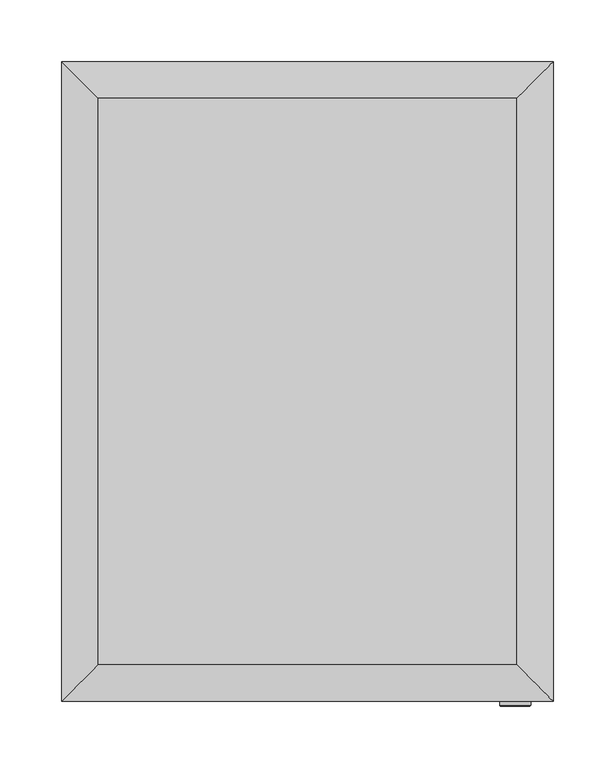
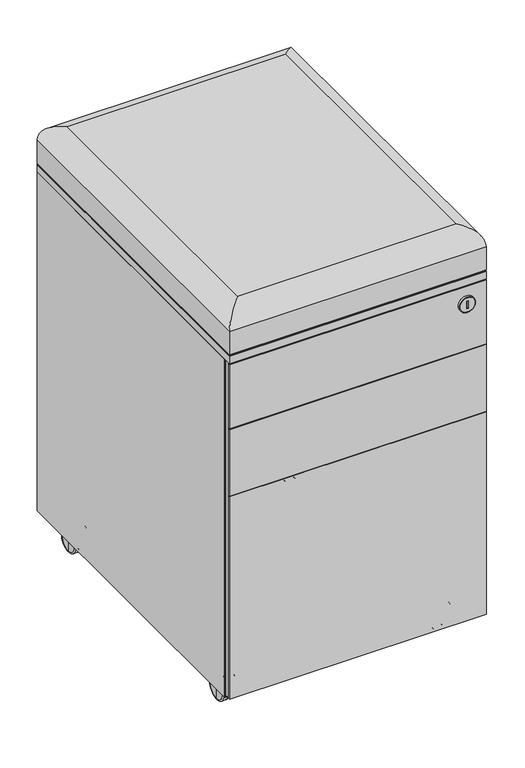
"""IFC4 building model written with IfcOpenShell, lengths in millimetres: furniture geometry, LH mobile caddy w.unpholstered seat : LH mobile caddy w.unpholstered seat."""

from ifc_helpers import new_model, si_unit, point, frame, frame_2d, origin, place, context, project, spatial, polyline, circle_curve, ellipse_curve, trimmed, segment, composite_curve, outline, extrude, faceted_brep, source, transform, mapped, element, save
from ifc_brep_helpers import plane_surface, cylinder_surface, revolved_surface, advanced_brep


def furniture_0ea46203(model_context):
    return source(origin(), model_context, "Body", "SolidModel", [
        extrude(outline(polyline([(170.0273848, -260.0), (168.0273848, -260.0), (168.0273848, -160.0), (170.0273848, -160.0), (170.0273848, -260.0)])), frame((0.0, 0.0, 566.6206655), z_axis=(0.0, 0.0, 1.0), x_axis=(1.0, 0.0, 0.0)), (0.0, 0.0, 1.0), 12.0),
        advanced_brep(
        [(157.4473365, -264.0, 572.5526635), (180.5526635, -264.0, 572.5526635), (170.0273848, -264.0, 578.6206655), (170.0273848, -264.0, 566.6206655), (168.0273848, -264.0, 566.6206655), (168.0273848, -264.0, 578.6206655), (156.4473365, -260.0, 572.5526635), (181.5526635, -260.0, 572.5526635), (170.0273848, -260.0, 578.6206655), (168.0273848, -260.0, 578.6206655), (168.0273848, -260.0, 566.6206655), (170.0273848, -260.0, 566.6206655), (181.5526635, -263.0, 572.5526635), (156.4473365, -263.0, 572.5526635)],
        [
            (0, 1, circle_curve(frame((169.0, -264.0, 572.5526635), z_axis=(0.0, -1.0, 0.0), x_axis=(1.0, 0.0, 0.0)), 11.5526635)),
            (1, 0, circle_curve(frame((169.0, -264.0, 572.5526635), z_axis=(0.0, -1.0, 0.0), x_axis=(-1.0, 0.0, 0.0)), 11.5526635)),
            (2, 3),
            (3, 4),
            (4, 5),
            (5, 2),
            (6, 7, circle_curve(frame((169.0, -260.0, 572.5526635), z_axis=(0.0, 1.0, 0.0), x_axis=(1.0, 0.0, 0.0)), 12.5526635)),
            (7, 6, circle_curve(frame((169.0, -260.0, 572.5526635), z_axis=(0.0, 1.0, 0.0), x_axis=(1.0, 0.0, 0.0)), 12.5526635)),
            (8, 9),
            (9, 10),
            (10, 11),
            (11, 8),
            (7, 12),
            (12, 13, circle_curve(frame((169.0, -263.0, 572.5526635), z_axis=(0.0, 1.0, 0.0), x_axis=(1.0, 0.0, 0.0)), 12.5526635)),
            (13, 6),
            (13, 12, circle_curve(frame((169.0, -263.0, 572.5526635), z_axis=(0.0, 1.0, 0.0), x_axis=(1.0, 0.0, 0.0)), 12.5526635)),
            (2, 8),
            (11, 3),
            (10, 4),
            (9, 5),
            (0, 13, circle_curve(frame((157.4473365, -263.0, 572.5526635), z_axis=(0.0, 0.0, -1.0), x_axis=(-1.0, 0.0, 0.0)), 1.0)),
            (12, 1, circle_curve(frame((180.5526635, -263.0, 572.5526635), z_axis=(0.0, 0.0, -1.0), x_axis=(1.0, 0.0, 0.0)), 1.0)),
        ],
        [
            plane_surface(frame((181.5526635, -264.0, 572.5526635), z_axis=(0.0, -1.0, 0.0), x_axis=(0.0, 0.0, 1.0))),
            plane_surface(frame((181.5526635, -260.0, 572.5526635), z_axis=(0.0, 1.0, 0.0), x_axis=(0.0, 0.0, -1.0))),
            cylinder_surface(frame((169.0, -260.0, 572.5526635), z_axis=(0.0, -1.0, 0.0), x_axis=(1.0, 0.0, 0.0)), 12.5526635),
            plane_surface(frame((170.0273848, -264.0, 578.6206655), z_axis=(-1.0, 0.0, 0.0), x_axis=(0.0, 1.0, 0.0))),
            plane_surface(frame((170.0273848, -264.0, 566.6206655), z_axis=(0.0, 0.0, 1.0), x_axis=(0.0, 1.0, 0.0))),
            plane_surface(frame((168.0273848, -264.0, 566.6206655), z_axis=(1.0, 0.0, 0.0), x_axis=(0.0, 1.0, 0.0))),
            plane_surface(frame((168.0273848, -264.0, 578.6206655), z_axis=(0.0, 0.0, -1.0), x_axis=(0.0, 1.0, 0.0))),
            revolved_surface(trimmed(ellipse_curve(frame((180.5526635, -263.0, 572.5526635), z_axis=(0.0, 0.0, 1.0), x_axis=(1.0, 0.0, 0.0)), 1.0, 1.0), [point((180.5526635, -264.0, 572.5526635))], [point((181.5526635, -263.0, 572.5526635))], True, "CARTESIAN"), (169.0, -264.0, 572.5526635), (0.0, 1.0, 0.0)),
            revolved_surface(trimmed(ellipse_curve(frame((157.4473365, -263.0, 572.5526635), z_axis=(0.0, 0.0, -1.0), x_axis=(-1.0, 0.0, 0.0)), 1.0, 1.0), [point((157.4473365, -264.0, 572.5526635))], [point((156.4473365, -263.0, 572.5526635))], True, "CARTESIAN"), (169.0, -264.0, 572.5526635), (0.0, 1.0, 0.0)),
        ],
        [
            (0, [[1, 2], [3, 4, 5, 6]]),
            (1, [[7, 8], [9, 10, 11, 12]]),
            (2, [[-8, 13, 14, 15]]),
            (2, [[-7, -15, 16, -13]]),
            (3, [[-3, 17, -12, 18]]),
            (4, [[-4, -18, -11, 19]]),
            (5, [[-5, -19, -10, 20]]),
            (6, [[-6, -20, -9, -17]]),
            (7, [[21, -14, 22, -1]]),
            (8, [[-21, -2, -22, -16]]),
        ],
    ),
        advanced_brep(
        [(170.0, 230.0, 685.0), (-170.0, 230.0, 685.0), (-170.0, -230.0, 685.0), (170.0, -230.0, 685.0), (198.0, -258.0, 615.0), (-198.0, -258.0, 615.0), (-198.0, 258.0, 615.0), (198.0, 258.0, 615.0), (-200.0, 260.0, 655.0), (200.0, 260.0, 655.0), (200.0, 260.0, 617.0), (-200.0, 260.0, 617.0), (-200.0, -260.0, 655.0), (-200.0, -260.0, 617.0), (200.0, -260.0, 655.0), (200.0, -260.0, 617.0)],
        [
            (0, 1),
            (1, 2),
            (2, 3),
            (3, 0),
            (4, 5),
            (5, 6),
            (6, 7),
            (7, 4),
            (8, 9),
            (9, 10),
            (10, 11),
            (11, 8),
            (12, 8),
            (11, 13),
            (13, 12),
            (14, 12),
            (13, 15),
            (15, 14),
            (9, 14),
            (15, 10),
            (8, 1, ellipse_curve(frame((-170.0, 230.0, 655.0), z_axis=(0.7071067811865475, 0.7071067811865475, 0.0), x_axis=(-0.7071067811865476, 0.7071067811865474, 0.0)), 42.4264069, 30.0)),
            (0, 9, ellipse_curve(frame((170.0, 230.0, 655.0), z_axis=(-0.7071067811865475, 0.7071067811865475, 0.0), x_axis=(-0.7071067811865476, -0.7071067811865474, 0.0)), 42.4264069, 30.0)),
            (12, 2, ellipse_curve(frame((-170.0, -230.0, 655.0), z_axis=(-0.7071067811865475, 0.7071067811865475, 0.0), x_axis=(-0.7071067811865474, -0.7071067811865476, 0.0)), 42.4264069, 30.0)),
            (14, 3, ellipse_curve(frame((170.0, -230.0, 655.0), z_axis=(-0.7071067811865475, -0.7071067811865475, 0.0), x_axis=(0.7071067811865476, -0.7071067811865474, 0.0)), 42.4264069, 30.0)),
            (13, 5, ellipse_curve(frame((-198.0, -258.0, 617.0), z_axis=(0.7071067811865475, -0.7071067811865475, 0.0), x_axis=(-0.7071067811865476, -0.7071067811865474, 0.0)), 2.8284271, 2.0)),
            (4, 15, ellipse_curve(frame((198.0, -258.0, 617.0), z_axis=(-0.7071067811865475, -0.7071067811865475, 0.0), x_axis=(-0.7071067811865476, 0.7071067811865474, 0.0)), 2.8284271, 2.0)),
            (11, 6, ellipse_curve(frame((-198.0, 258.0, 617.0), z_axis=(-0.7071067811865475, -0.7071067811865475, 0.0), x_axis=(-0.7071067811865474, 0.7071067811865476, 0.0)), 2.8284271, 2.0)),
            (10, 7, ellipse_curve(frame((198.0, 258.0, 617.0), z_axis=(-0.7071067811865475, 0.7071067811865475, 0.0), x_axis=(0.7071067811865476, 0.7071067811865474, 0.0)), 2.8284271, 2.0)),
        ],
        [
            plane_surface(frame((-200.0, 260.0, 685.0), z_axis=(0.0, 0.0, 1.0), x_axis=(-1.0, 0.0, 0.0))),
            plane_surface(frame((-200.0, 260.0, 615.0), z_axis=(0.0, 0.0, -1.0), x_axis=(1.0, 0.0, 0.0))),
            plane_surface(frame((200.0, 260.0, 685.0), z_axis=(0.0, 1.0, 0.0), x_axis=(0.0, 0.0, -1.0))),
            plane_surface(frame((-200.0, 260.0, 685.0), z_axis=(-1.0, 0.0, 0.0), x_axis=(0.0, 0.0, -1.0))),
            plane_surface(frame((-200.0, -260.0, 685.0), z_axis=(0.0, -1.0, 0.0), x_axis=(0.0, 0.0, -1.0))),
            plane_surface(frame((200.0, -260.0, 685.0), z_axis=(1.0, 0.0, 0.0), x_axis=(0.0, 0.0, -1.0))),
            cylinder_surface(frame((200.0, 230.0, 655.0), z_axis=(-1.0, 0.0, 0.0), x_axis=(0.0, -1.0, 0.0)), 30.0),
            cylinder_surface(frame((-170.0, 260.0, 655.0), z_axis=(0.0, -1.0, 0.0), x_axis=(1.0, 0.0, 0.0)), 30.0),
            cylinder_surface(frame((-200.0, -230.0, 655.0), z_axis=(1.0, 0.0, 0.0), x_axis=(0.0, 1.0, 0.0)), 30.0),
            cylinder_surface(frame((170.0, -260.0, 655.0), z_axis=(0.0, 1.0, 0.0), x_axis=(-1.0, 0.0, 0.0)), 30.0),
            cylinder_surface(frame((200.0, -258.0, 617.0), z_axis=(-1.0, 0.0, 0.0), x_axis=(0.0, 1.0, 0.0)), 2.0),
            cylinder_surface(frame((-198.0, -260.0, 617.0), z_axis=(0.0, 1.0, 0.0), x_axis=(1.0, 0.0, 0.0)), 2.0),
            cylinder_surface(frame((-200.0, 258.0, 617.0), z_axis=(1.0, 0.0, 0.0), x_axis=(0.0, -1.0, 0.0)), 2.0),
            cylinder_surface(frame((198.0, 260.0, 617.0), z_axis=(0.0, -1.0, 0.0), x_axis=(-1.0, 0.0, 0.0)), 2.0),
        ],
        [
            (0, [[1, 2, 3, 4]]),
            (1, [[5, 6, 7, 8]]),
            (2, [[9, 10, 11, 12]]),
            (3, [[13, -12, 14, 15]]),
            (4, [[16, -15, 17, 18]]),
            (5, [[19, -18, 20, -10]]),
            (6, [[21, -1, 22, -9]]),
            (7, [[-21, -13, 23, -2]]),
            (8, [[-23, -16, 24, -3]]),
            (9, [[-22, -4, -24, -19]]),
            (10, [[25, -5, 26, -17]]),
            (11, [[-25, -14, 27, -6]]),
            (12, [[-27, -11, 28, -7]]),
            (13, [[-26, -8, -28, -20]]),
        ],
    ),
        extrude(outline(polyline([(178.0, -180.0), (178.0, -200.0), (158.0, -200.0), (158.0, -180.0), (178.0, -180.0)])), frame((0.0, 0.0, 43.9728703), z_axis=(0.0, 0.0, 1.0), x_axis=(1.0, 0.0, 0.0)), (0.0, 0.0, 1.0), 1.0),
        extrude(outline(composite_curve([segment(trimmed(circle_curve(frame_2d((168.0, -190.0)), 5.0), [point((163.0, -190.0))], [point((173.0, -190.0))], False, "CARTESIAN"), True, "CONTINUOUS"), segment(trimmed(circle_curve(frame_2d((168.0, -190.0)), 5.0), [point((173.0, -190.0))], [point((163.0, -190.0))], False, "CARTESIAN"), True, "CONTINUOUS")], self_intersect=False)), frame((0.0, 0.0, 33.9910172), z_axis=(0.0, 0.0, 1.0), x_axis=(1.0, 0.0, 0.0)), (0.0, 0.0, 1.0), 9.9818531),
        advanced_brep(
        [(172.1141274, -190.0, -0.0314992), (172.1141274, -190.0, 38.0135337), (178.4241314, -190.0, 38.0135337), (178.4241314, -190.0, -0.0314992), (170.5141274, -190.0, 2.5273707), (170.5141274, -190.0, 35.4546638), (170.5141274, -190.0, 36.4135337), (170.5141274, -190.0, 1.5685008), (180.5141274, -190.0, 2.0584968), (180.5141274, -190.0, 35.9235376), (180.5141274, -190.0, 18.9910172), (165.4858726, -190.0, 2.5273707), (165.4858726, -190.0, 35.4546638), (165.4858726, -190.0, 1.6116925), (165.4858726, -190.0, 36.370342), (163.8426809, -190.0, -0.0314992), (163.8426809, -190.0, 38.0135337), (157.4746043, -190.0, -0.0314992), (157.4746043, -190.0, 38.0135337), (155.4858726, -190.0, 1.9572325), (155.4858726, -190.0, 36.0248019), (155.4858726, -190.0, 18.9910172)],
        [
            (0, 1, circle_curve(frame((172.1141274, -190.0, 18.9910172), z_axis=(1.0, 0.0, 0.0), x_axis=(0.0, 0.0, 1.0)), 19.0225164)),
            (1, 2),
            (2, 3, circle_curve(frame((178.4241314, -190.0, 18.9910172), z_axis=(-1.0, 0.0, 0.0), x_axis=(0.0, 0.0, 1.0)), 19.0225164)),
            (3, 0),
            (1, 0, circle_curve(frame((172.1141274, -190.0, 18.9910172), z_axis=(1.0, 0.0, 0.0), x_axis=(0.0, 0.0, 1.0)), 19.0225164)),
            (3, 2, circle_curve(frame((178.4241314, -190.0, 18.9910172), z_axis=(-1.0, 0.0, 0.0), x_axis=(0.0, 0.0, 1.0)), 19.0225164)),
            (4, 5, circle_curve(frame((170.5141274, -190.0, 18.9910172), z_axis=(1.0, 0.0, 0.0), x_axis=(0.0, 0.0, 1.0)), 16.4636466)),
            (5, 6),
            (6, 7, circle_curve(frame((170.5141274, -190.0, 18.9910172), z_axis=(-1.0, 0.0, 0.0), x_axis=(0.0, 0.0, 1.0)), 17.4225164)),
            (7, 4),
            (5, 4, circle_curve(frame((170.5141274, -190.0, 18.9910172), z_axis=(1.0, 0.0, 0.0), x_axis=(0.0, 0.0, 1.0)), 16.4636466)),
            (7, 6, circle_curve(frame((170.5141274, -190.0, 18.9910172), z_axis=(-1.0, 0.0, 0.0), x_axis=(0.0, 0.0, 1.0)), 17.4225164)),
            (8, 9, circle_curve(frame((180.5141274, -190.0, 18.9910172), z_axis=(1.0, 0.0, 0.0), x_axis=(0.0, 0.0, 1.0)), 16.9325204)),
            (9, 10),
            (10, 8),
            (9, 8, circle_curve(frame((180.5141274, -190.0, 18.9910172), z_axis=(1.0, 0.0, 0.0), x_axis=(0.0, 0.0, 1.0)), 16.9325204)),
            (2, 9, circle_curve(frame((178.4241314, -190.0, 35.9235376), z_axis=(0.0, 1.0, 0.0), x_axis=(1.0, 0.0, 0.0)), 2.0899961)),
            (8, 3, circle_curve(frame((178.4241314, -190.0, 2.0584968), z_axis=(0.0, 1.0, 0.0), x_axis=(1.0, 0.0, 0.0)), 2.0899961)),
            (6, 1, circle_curve(frame((172.1141274, -190.0, 36.4135337), z_axis=(0.0, 1.0, 0.0), x_axis=(1.0, 0.0, 0.0)), 1.6)),
            (0, 7, circle_curve(frame((172.1141274, -190.0, 1.5685008), z_axis=(0.0, 1.0, 0.0), x_axis=(1.0, 0.0, 0.0)), 1.6)),
            (11, 12, circle_curve(frame((165.4858726, -190.0, 18.9910172), z_axis=(1.0, 0.0, 0.0), x_axis=(0.0, 0.0, 1.0)), 16.4636466)),
            (12, 5),
            (4, 11),
            (12, 11, circle_curve(frame((165.4858726, -190.0, 18.9910172), z_axis=(1.0, 0.0, 0.0), x_axis=(0.0, 0.0, 1.0)), 16.4636466)),
            (13, 14, circle_curve(frame((165.4858726, -190.0, 18.9910172), z_axis=(1.0, 0.0, 0.0), x_axis=(0.0, 0.0, 1.0)), 17.3793248)),
            (14, 12),
            (11, 13),
            (14, 13, circle_curve(frame((165.4858726, -190.0, 18.9910172), z_axis=(1.0, 0.0, 0.0), x_axis=(0.0, 0.0, 1.0)), 17.3793248)),
            (15, 16, circle_curve(frame((163.8426809, -190.0, 18.9910172), z_axis=(1.0, 0.0, 0.0), x_axis=(0.0, 0.0, 1.0)), 19.0225164)),
            (16, 14, circle_curve(frame((163.8426809, -190.0, 36.370342), z_axis=(0.0, 1.0, 0.0), x_axis=(1.0, 0.0, 0.0)), 1.6431917)),
            (13, 15, circle_curve(frame((163.8426809, -190.0, 1.6116925), z_axis=(0.0, 1.0, 0.0), x_axis=(1.0, 0.0, 0.0)), 1.6431917)),
            (16, 15, circle_curve(frame((163.8426809, -190.0, 18.9910172), z_axis=(1.0, 0.0, 0.0), x_axis=(0.0, 0.0, 1.0)), 19.0225164)),
            (17, 18, circle_curve(frame((157.4746043, -190.0, 18.9910172), z_axis=(1.0, 0.0, 0.0), x_axis=(0.0, 0.0, 1.0)), 19.0225164)),
            (18, 16),
            (15, 17),
            (18, 17, circle_curve(frame((157.4746043, -190.0, 18.9910172), z_axis=(1.0, 0.0, 0.0), x_axis=(0.0, 0.0, 1.0)), 19.0225164)),
            (19, 20, circle_curve(frame((155.4858726, -190.0, 18.9910172), z_axis=(1.0, 0.0, 0.0), x_axis=(0.0, 0.0, 1.0)), 17.0337847)),
            (20, 18, circle_curve(frame((157.4746043, -190.0, 36.0248019), z_axis=(0.0, 1.0, 0.0), x_axis=(1.0, 0.0, 0.0)), 1.9887317)),
            (17, 19, circle_curve(frame((157.4746043, -190.0, 1.9572325), z_axis=(0.0, 1.0, 0.0), x_axis=(1.0, 0.0, 0.0)), 1.9887317)),
            (20, 19, circle_curve(frame((155.4858726, -190.0, 18.9910172), z_axis=(1.0, 0.0, 0.0), x_axis=(0.0, 0.0, 1.0)), 17.0337847)),
            (21, 20),
            (19, 21),
        ],
        [
            cylinder_surface(frame((126.3216538, -190.0, 18.9910172), z_axis=(-1.0, 0.0, 0.0), x_axis=(0.0, 0.0, 1.0)), 19.0225164),
            plane_surface(frame((170.5141274, -190.0, 18.9910172), z_axis=(-1.0, 0.0, 0.0), x_axis=(0.0, 0.0, 1.0))),
            plane_surface(frame((180.5141274, -190.0, 18.9910172), z_axis=(1.0, 0.0, 0.0), x_axis=(0.0, 0.0, 1.0))),
            revolved_surface(trimmed(ellipse_curve(frame((178.4241314, -190.0, 35.9235376), z_axis=(0.0, -1.0, 0.0), x_axis=(1.0, 0.0, 0.0)), 2.0899961, 2.0899961), [point((180.5141274, -190.0, 35.9235376))], [point((178.4241314, -190.0, 38.0135337))], True, "CARTESIAN"), (126.3216538, -190.0, 18.9910172), (-1.0, 0.0, 0.0)),
            revolved_surface(trimmed(ellipse_curve(frame((172.1141274, -190.0, 36.4135337), z_axis=(0.0, -1.0, 0.0), x_axis=(1.0, 0.0, 0.0)), 1.6, 1.6), [point((172.1141274, -190.0, 38.0135337))], [point((170.5141274, -190.0, 36.4135337))], True, "CARTESIAN"), (126.3216538, -190.0, 18.9910172), (-1.0, 0.0, 0.0)),
            cylinder_surface(frame((126.3216538, -190.0, 18.9910172), z_axis=(-1.0, 0.0, 0.0), x_axis=(0.0, 0.0, 1.0)), 16.4636466),
            plane_surface(frame((165.4858726, -190.0, 18.9910172), z_axis=(1.0, 0.0, 0.0), x_axis=(0.0, 0.0, 1.0))),
            revolved_surface(trimmed(ellipse_curve(frame((163.8426809, -190.0, 36.370342), z_axis=(0.0, -1.0, 0.0), x_axis=(1.0, 0.0, 0.0)), 1.6431917, 1.6431917), [point((165.4858726, -190.0, 36.370342))], [point((163.8426809, -190.0, 38.0135337))], True, "CARTESIAN"), (126.3216538, -190.0, 18.9910172), (-1.0, 0.0, 0.0)),
            revolved_surface(trimmed(ellipse_curve(frame((157.4746043, -190.0, 36.0248019), z_axis=(0.0, -1.0, 0.0), x_axis=(1.0, 0.0, 0.0)), 1.9887317, 1.9887317), [point((157.4746043, -190.0, 38.0135337))], [point((155.4858726, -190.0, 36.0248019))], True, "CARTESIAN"), (126.3216538, -190.0, 18.9910172), (-1.0, 0.0, 0.0)),
            plane_surface(frame((155.4858726, -190.0, 18.9910172), z_axis=(-1.0, 0.0, 0.0), x_axis=(0.0, 0.0, 1.0))),
        ],
        [
            (0, [[1, 2, 3, 4]]),
            (0, [[5, -4, 6, -2]]),
            (1, [[7, 8, 9, 10]]),
            (1, [[11, -10, 12, -8]]),
            (2, [[13, 14, 15]]),
            (2, [[16, -15, -14]]),
            (3, [[-3, 17, -13, 18]]),
            (3, [[-6, -18, -16, -17]]),
            (4, [[-9, 19, -1, 20]]),
            (4, [[-12, -20, -5, -19]]),
            (5, [[21, 22, -7, 23]]),
            (5, [[24, -23, -11, -22]]),
            (6, [[25, 26, -21, 27]]),
            (6, [[28, -27, -24, -26]]),
            (7, [[29, 30, -25, 31]]),
            (7, [[32, -31, -28, -30]]),
            (0, [[33, 34, -29, 35]]),
            (0, [[36, -35, -32, -34]]),
            (8, [[37, 38, -33, 39]]),
            (8, [[40, -39, -36, -38]]),
            (9, [[41, -37, 42]]),
            (9, [[-42, -40, -41]]),
        ],
    ),
        extrude(outline(polyline([(-158.0, -180.0), (-158.0, -200.0), (-178.0, -200.0), (-178.0, -180.0), (-158.0, -180.0)])), frame((0.0, 0.0, 43.9728703), z_axis=(0.0, 0.0, 1.0), x_axis=(1.0, 0.0, 0.0)), (0.0, 0.0, 1.0), 1.0),
        extrude(outline(composite_curve([segment(trimmed(circle_curve(frame_2d((-168.0, -190.0)), 5.0), [point((-173.0, -190.0))], [point((-163.0, -190.0))], False, "CARTESIAN"), True, "CONTINUOUS"), segment(trimmed(circle_curve(frame_2d((-168.0, -190.0)), 5.0), [point((-163.0, -190.0))], [point((-173.0, -190.0))], False, "CARTESIAN"), True, "CONTINUOUS")], self_intersect=False)), frame((0.0, 0.0, 33.9910172), z_axis=(0.0, 0.0, 1.0), x_axis=(1.0, 0.0, 0.0)), (0.0, 0.0, 1.0), 9.9818531),
        advanced_brep(
        [(-163.8858726, -190.0, -0.0314992), (-163.8858726, -190.0, 38.0135337), (-157.5758686, -190.0, 38.0135337), (-157.5758686, -190.0, -0.0314992), (-165.4858726, -190.0, 2.5273707), (-165.4858726, -190.0, 35.4546638), (-165.4858726, -190.0, 36.4135337), (-165.4858726, -190.0, 1.5685008), (-155.4858726, -190.0, 2.0584968), (-155.4858726, -190.0, 35.9235376), (-155.4858726, -190.0, 18.9910172), (-170.5141274, -190.0, 2.5273707), (-170.5141274, -190.0, 35.4546638), (-170.5141274, -190.0, 1.6116925), (-170.5141274, -190.0, 36.370342), (-172.1573191, -190.0, -0.0314992), (-172.1573191, -190.0, 38.0135337), (-178.5253957, -190.0, -0.0314992), (-178.5253957, -190.0, 38.0135337), (-180.5141274, -190.0, 1.9572325), (-180.5141274, -190.0, 36.0248019), (-180.5141274, -190.0, 18.9910172)],
        [
            (0, 1, circle_curve(frame((-163.8858726, -190.0, 18.9910172), z_axis=(1.0, 0.0, 0.0), x_axis=(0.0, 0.0, 1.0)), 19.0225164)),
            (1, 2),
            (2, 3, circle_curve(frame((-157.5758686, -190.0, 18.9910172), z_axis=(-1.0, 0.0, 0.0), x_axis=(0.0, 0.0, 1.0)), 19.0225164)),
            (3, 0),
            (1, 0, circle_curve(frame((-163.8858726, -190.0, 18.9910172), z_axis=(1.0, 0.0, 0.0), x_axis=(0.0, 0.0, 1.0)), 19.0225164)),
            (3, 2, circle_curve(frame((-157.5758686, -190.0, 18.9910172), z_axis=(-1.0, 0.0, 0.0), x_axis=(0.0, 0.0, 1.0)), 19.0225164)),
            (4, 5, circle_curve(frame((-165.4858726, -190.0, 18.9910172), z_axis=(1.0, 0.0, 0.0), x_axis=(0.0, 0.0, 1.0)), 16.4636466)),
            (5, 6),
            (6, 7, circle_curve(frame((-165.4858726, -190.0, 18.9910172), z_axis=(-1.0, 0.0, 0.0), x_axis=(0.0, 0.0, 1.0)), 17.4225164)),
            (7, 4),
            (5, 4, circle_curve(frame((-165.4858726, -190.0, 18.9910172), z_axis=(1.0, 0.0, 0.0), x_axis=(0.0, 0.0, 1.0)), 16.4636466)),
            (7, 6, circle_curve(frame((-165.4858726, -190.0, 18.9910172), z_axis=(-1.0, 0.0, 0.0), x_axis=(0.0, 0.0, 1.0)), 17.4225164)),
            (8, 9, circle_curve(frame((-155.4858726, -190.0, 18.9910172), z_axis=(1.0, 0.0, 0.0), x_axis=(0.0, 0.0, 1.0)), 16.9325204)),
            (9, 10),
            (10, 8),
            (9, 8, circle_curve(frame((-155.4858726, -190.0, 18.9910172), z_axis=(1.0, 0.0, 0.0), x_axis=(0.0, 0.0, 1.0)), 16.9325204)),
            (2, 9, circle_curve(frame((-157.5758686, -190.0, 35.9235376), z_axis=(0.0, 1.0, 0.0), x_axis=(1.0, 0.0, 0.0)), 2.0899961)),
            (8, 3, circle_curve(frame((-157.5758686, -190.0, 2.0584968), z_axis=(0.0, 1.0, 0.0), x_axis=(1.0, 0.0, 0.0)), 2.0899961)),
            (6, 1, circle_curve(frame((-163.8858726, -190.0, 36.4135337), z_axis=(0.0, 1.0, 0.0), x_axis=(1.0, 0.0, 0.0)), 1.6)),
            (0, 7, circle_curve(frame((-163.8858726, -190.0, 1.5685008), z_axis=(0.0, 1.0, 0.0), x_axis=(1.0, 0.0, 0.0)), 1.6)),
            (11, 12, circle_curve(frame((-170.5141274, -190.0, 18.9910172), z_axis=(1.0, 0.0, 0.0), x_axis=(0.0, 0.0, 1.0)), 16.4636466)),
            (12, 5),
            (4, 11),
            (12, 11, circle_curve(frame((-170.5141274, -190.0, 18.9910172), z_axis=(1.0, 0.0, 0.0), x_axis=(0.0, 0.0, 1.0)), 16.4636466)),
            (13, 14, circle_curve(frame((-170.5141274, -190.0, 18.9910172), z_axis=(1.0, 0.0, 0.0), x_axis=(0.0, 0.0, 1.0)), 17.3793248)),
            (14, 12),
            (11, 13),
            (14, 13, circle_curve(frame((-170.5141274, -190.0, 18.9910172), z_axis=(1.0, 0.0, 0.0), x_axis=(0.0, 0.0, 1.0)), 17.3793248)),
            (15, 16, circle_curve(frame((-172.1573191, -190.0, 18.9910172), z_axis=(1.0, 0.0, 0.0), x_axis=(0.0, 0.0, 1.0)), 19.0225164)),
            (16, 14, circle_curve(frame((-172.1573191, -190.0, 36.370342), z_axis=(0.0, 1.0, 0.0), x_axis=(1.0, 0.0, 0.0)), 1.6431917)),
            (13, 15, circle_curve(frame((-172.1573191, -190.0, 1.6116925), z_axis=(0.0, 1.0, 0.0), x_axis=(1.0, 0.0, 0.0)), 1.6431917)),
            (16, 15, circle_curve(frame((-172.1573191, -190.0, 18.9910172), z_axis=(1.0, 0.0, 0.0), x_axis=(0.0, 0.0, 1.0)), 19.0225164)),
            (17, 18, circle_curve(frame((-178.5253957, -190.0, 18.9910172), z_axis=(1.0, 0.0, 0.0), x_axis=(0.0, 0.0, 1.0)), 19.0225164)),
            (18, 16),
            (15, 17),
            (18, 17, circle_curve(frame((-178.5253957, -190.0, 18.9910172), z_axis=(1.0, 0.0, 0.0), x_axis=(0.0, 0.0, 1.0)), 19.0225164)),
            (19, 20, circle_curve(frame((-180.5141274, -190.0, 18.9910172), z_axis=(1.0, 0.0, 0.0), x_axis=(0.0, 0.0, 1.0)), 17.0337847)),
            (20, 18, circle_curve(frame((-178.5253957, -190.0, 36.0248019), z_axis=(0.0, 1.0, 0.0), x_axis=(1.0, 0.0, 0.0)), 1.9887317)),
            (17, 19, circle_curve(frame((-178.5253957, -190.0, 1.9572325), z_axis=(0.0, 1.0, 0.0), x_axis=(1.0, 0.0, 0.0)), 1.9887317)),
            (20, 19, circle_curve(frame((-180.5141274, -190.0, 18.9910172), z_axis=(1.0, 0.0, 0.0), x_axis=(0.0, 0.0, 1.0)), 17.0337847)),
            (21, 20),
            (19, 21),
        ],
        [
            cylinder_surface(frame((-209.6783462, -190.0, 18.9910172), z_axis=(-1.0, 0.0, 0.0), x_axis=(0.0, 0.0, 1.0)), 19.0225164),
            plane_surface(frame((-165.4858726, -190.0, 18.9910172), z_axis=(-1.0, 0.0, 0.0), x_axis=(0.0, 0.0, 1.0))),
            plane_surface(frame((-155.4858726, -190.0, 18.9910172), z_axis=(1.0, 0.0, 0.0), x_axis=(0.0, 0.0, 1.0))),
            revolved_surface(trimmed(ellipse_curve(frame((-157.5758686, -190.0, 35.9235376), z_axis=(0.0, -1.0, 0.0), x_axis=(1.0, 0.0, 0.0)), 2.0899961, 2.0899961), [point((-155.4858726, -190.0, 35.9235376))], [point((-157.5758686, -190.0, 38.0135337))], True, "CARTESIAN"), (-209.6783462, -190.0, 18.9910172), (-1.0, 0.0, 0.0)),
            revolved_surface(trimmed(ellipse_curve(frame((-163.8858726, -190.0, 36.4135337), z_axis=(0.0, -1.0, 0.0), x_axis=(1.0, 0.0, 0.0)), 1.6, 1.6), [point((-163.8858726, -190.0, 38.0135337))], [point((-165.4858726, -190.0, 36.4135337))], True, "CARTESIAN"), (-209.6783462, -190.0, 18.9910172), (-1.0, 0.0, 0.0)),
            cylinder_surface(frame((-209.6783462, -190.0, 18.9910172), z_axis=(-1.0, 0.0, 0.0), x_axis=(0.0, 0.0, 1.0)), 16.4636466),
            plane_surface(frame((-170.5141274, -190.0, 18.9910172), z_axis=(1.0, 0.0, 0.0), x_axis=(0.0, 0.0, 1.0))),
            revolved_surface(trimmed(ellipse_curve(frame((-172.1573191, -190.0, 36.370342), z_axis=(0.0, -1.0, 0.0), x_axis=(1.0, 0.0, 0.0)), 1.6431917, 1.6431917), [point((-170.5141274, -190.0, 36.370342))], [point((-172.1573191, -190.0, 38.0135337))], True, "CARTESIAN"), (-209.6783462, -190.0, 18.9910172), (-1.0, 0.0, 0.0)),
            revolved_surface(trimmed(ellipse_curve(frame((-178.5253957, -190.0, 36.0248019), z_axis=(0.0, -1.0, 0.0), x_axis=(1.0, 0.0, 0.0)), 1.9887317, 1.9887317), [point((-178.5253957, -190.0, 38.0135337))], [point((-180.5141274, -190.0, 36.0248019))], True, "CARTESIAN"), (-209.6783462, -190.0, 18.9910172), (-1.0, 0.0, 0.0)),
            plane_surface(frame((-180.5141274, -190.0, 18.9910172), z_axis=(-1.0, 0.0, 0.0), x_axis=(0.0, 0.0, 1.0))),
        ],
        [
            (0, [[1, 2, 3, 4]]),
            (0, [[5, -4, 6, -2]]),
            (1, [[7, 8, 9, 10]]),
            (1, [[11, -10, 12, -8]]),
            (2, [[13, 14, 15]]),
            (2, [[16, -15, -14]]),
            (3, [[-3, 17, -13, 18]]),
            (3, [[-6, -18, -16, -17]]),
            (4, [[-9, 19, -1, 20]]),
            (4, [[-12, -20, -5, -19]]),
            (5, [[21, 22, -7, 23]]),
            (5, [[24, -23, -11, -22]]),
            (6, [[25, 26, -21, 27]]),
            (6, [[28, -27, -24, -26]]),
            (7, [[29, 30, -25, 31]]),
            (7, [[32, -31, -28, -30]]),
            (0, [[33, 34, -29, 35]]),
            (0, [[36, -35, -32, -34]]),
            (8, [[37, 38, -33, 39]]),
            (8, [[40, -39, -36, -38]]),
            (9, [[41, -37, 42]]),
            (9, [[-42, -40, -41]]),
        ],
    ),
        extrude(outline(polyline([(-158.0, 220.0), (-158.0, 200.0), (-178.0, 200.0), (-178.0, 220.0), (-158.0, 220.0)])), frame((0.0, 0.0, 43.9728703), z_axis=(0.0, 0.0, 1.0), x_axis=(1.0, 0.0, 0.0)), (0.0, 0.0, 1.0), 1.0),
        extrude(outline(composite_curve([segment(trimmed(circle_curve(frame_2d((-168.0, 210.0)), 5.0), [point((-173.0, 210.0))], [point((-163.0, 210.0))], False, "CARTESIAN"), True, "CONTINUOUS"), segment(trimmed(circle_curve(frame_2d((-168.0, 210.0)), 5.0), [point((-163.0, 210.0))], [point((-173.0, 210.0))], False, "CARTESIAN"), True, "CONTINUOUS")], self_intersect=False)), frame((0.0, 0.0, 33.9910172), z_axis=(0.0, 0.0, 1.0), x_axis=(1.0, 0.0, 0.0)), (0.0, 0.0, 1.0), 9.9818531),
        advanced_brep(
        [(-163.8858726, 210.0, -0.0314992), (-163.8858726, 210.0, 38.0135337), (-157.5758686, 210.0, 38.0135337), (-157.5758686, 210.0, -0.0314992), (-165.4858726, 210.0, 2.5273707), (-165.4858726, 210.0, 35.4546638), (-165.4858726, 210.0, 36.4135337), (-165.4858726, 210.0, 1.5685008), (-155.4858726, 210.0, 2.0584968), (-155.4858726, 210.0, 35.9235376), (-155.4858726, 210.0, 18.9910172), (-170.5141274, 210.0, 2.5273707), (-170.5141274, 210.0, 35.4546638), (-170.5141274, 210.0, 1.6116925), (-170.5141274, 210.0, 36.370342), (-172.1573191, 210.0, -0.0314992), (-172.1573191, 210.0, 38.0135337), (-178.5253957, 210.0, -0.0314992), (-178.5253957, 210.0, 38.0135337), (-180.5141274, 210.0, 1.9572325), (-180.5141274, 210.0, 36.0248019), (-180.5141274, 210.0, 18.9910172)],
        [
            (0, 1, circle_curve(frame((-163.8858726, 210.0, 18.9910172), z_axis=(1.0, 0.0, 0.0), x_axis=(0.0, 0.0, 1.0)), 19.0225164)),
            (1, 2),
            (2, 3, circle_curve(frame((-157.5758686, 210.0, 18.9910172), z_axis=(-1.0, 0.0, 0.0), x_axis=(0.0, 0.0, 1.0)), 19.0225164)),
            (3, 0),
            (1, 0, circle_curve(frame((-163.8858726, 210.0, 18.9910172), z_axis=(1.0, 0.0, 0.0), x_axis=(0.0, 0.0, 1.0)), 19.0225164)),
            (3, 2, circle_curve(frame((-157.5758686, 210.0, 18.9910172), z_axis=(-1.0, 0.0, 0.0), x_axis=(0.0, 0.0, 1.0)), 19.0225164)),
            (4, 5, circle_curve(frame((-165.4858726, 210.0, 18.9910172), z_axis=(1.0, 0.0, 0.0), x_axis=(0.0, 0.0, 1.0)), 16.4636466)),
            (5, 6),
            (6, 7, circle_curve(frame((-165.4858726, 210.0, 18.9910172), z_axis=(-1.0, 0.0, 0.0), x_axis=(0.0, 0.0, 1.0)), 17.4225164)),
            (7, 4),
            (5, 4, circle_curve(frame((-165.4858726, 210.0, 18.9910172), z_axis=(1.0, 0.0, 0.0), x_axis=(0.0, 0.0, 1.0)), 16.4636466)),
            (7, 6, circle_curve(frame((-165.4858726, 210.0, 18.9910172), z_axis=(-1.0, 0.0, 0.0), x_axis=(0.0, 0.0, 1.0)), 17.4225164)),
            (8, 9, circle_curve(frame((-155.4858726, 210.0, 18.9910172), z_axis=(1.0, 0.0, 0.0), x_axis=(0.0, 0.0, 1.0)), 16.9325204)),
            (9, 10),
            (10, 8),
            (9, 8, circle_curve(frame((-155.4858726, 210.0, 18.9910172), z_axis=(1.0, 0.0, 0.0), x_axis=(0.0, 0.0, 1.0)), 16.9325204)),
            (2, 9, circle_curve(frame((-157.5758686, 210.0, 35.9235376), z_axis=(0.0, 1.0, 0.0), x_axis=(1.0, 0.0, 0.0)), 2.0899961)),
            (8, 3, circle_curve(frame((-157.5758686, 210.0, 2.0584968), z_axis=(0.0, 1.0, 0.0), x_axis=(1.0, 0.0, 0.0)), 2.0899961)),
            (6, 1, circle_curve(frame((-163.8858726, 210.0, 36.4135337), z_axis=(0.0, 1.0, 0.0), x_axis=(1.0, 0.0, 0.0)), 1.6)),
            (0, 7, circle_curve(frame((-163.8858726, 210.0, 1.5685008), z_axis=(0.0, 1.0, 0.0), x_axis=(1.0, 0.0, 0.0)), 1.6)),
            (11, 12, circle_curve(frame((-170.5141274, 210.0, 18.9910172), z_axis=(1.0, 0.0, 0.0), x_axis=(0.0, 0.0, 1.0)), 16.4636466)),
            (12, 5),
            (4, 11),
            (12, 11, circle_curve(frame((-170.5141274, 210.0, 18.9910172), z_axis=(1.0, 0.0, 0.0), x_axis=(0.0, 0.0, 1.0)), 16.4636466)),
            (13, 14, circle_curve(frame((-170.5141274, 210.0, 18.9910172), z_axis=(1.0, 0.0, 0.0), x_axis=(0.0, 0.0, 1.0)), 17.3793248)),
            (14, 12),
            (11, 13),
            (14, 13, circle_curve(frame((-170.5141274, 210.0, 18.9910172), z_axis=(1.0, 0.0, 0.0), x_axis=(0.0, 0.0, 1.0)), 17.3793248)),
            (15, 16, circle_curve(frame((-172.1573191, 210.0, 18.9910172), z_axis=(1.0, 0.0, 0.0), x_axis=(0.0, 0.0, 1.0)), 19.0225164)),
            (16, 14, circle_curve(frame((-172.1573191, 210.0, 36.370342), z_axis=(0.0, 1.0, 0.0), x_axis=(1.0, 0.0, 0.0)), 1.6431917)),
            (13, 15, circle_curve(frame((-172.1573191, 210.0, 1.6116925), z_axis=(0.0, 1.0, 0.0), x_axis=(1.0, 0.0, 0.0)), 1.6431917)),
            (16, 15, circle_curve(frame((-172.1573191, 210.0, 18.9910172), z_axis=(1.0, 0.0, 0.0), x_axis=(0.0, 0.0, 1.0)), 19.0225164)),
            (17, 18, circle_curve(frame((-178.5253957, 210.0, 18.9910172), z_axis=(1.0, 0.0, 0.0), x_axis=(0.0, 0.0, 1.0)), 19.0225164)),
            (18, 16),
            (15, 17),
            (18, 17, circle_curve(frame((-178.5253957, 210.0, 18.9910172), z_axis=(1.0, 0.0, 0.0), x_axis=(0.0, 0.0, 1.0)), 19.0225164)),
            (19, 20, circle_curve(frame((-180.5141274, 210.0, 18.9910172), z_axis=(1.0, 0.0, 0.0), x_axis=(0.0, 0.0, 1.0)), 17.0337847)),
            (20, 18, circle_curve(frame((-178.5253957, 210.0, 36.0248019), z_axis=(0.0, 1.0, 0.0), x_axis=(1.0, 0.0, 0.0)), 1.9887317)),
            (17, 19, circle_curve(frame((-178.5253957, 210.0, 1.9572325), z_axis=(0.0, 1.0, 0.0), x_axis=(1.0, 0.0, 0.0)), 1.9887317)),
            (20, 19, circle_curve(frame((-180.5141274, 210.0, 18.9910172), z_axis=(1.0, 0.0, 0.0), x_axis=(0.0, 0.0, 1.0)), 17.0337847)),
            (21, 20),
            (19, 21),
        ],
        [
            cylinder_surface(frame((-209.6783462, 210.0, 18.9910172), z_axis=(-1.0, 0.0, 0.0), x_axis=(0.0, 0.0, 1.0)), 19.0225164),
            plane_surface(frame((-165.4858726, 210.0, 18.9910172), z_axis=(-1.0, 0.0, 0.0), x_axis=(0.0, 0.0, 1.0))),
            plane_surface(frame((-155.4858726, 210.0, 18.9910172), z_axis=(1.0, 0.0, 0.0), x_axis=(0.0, 0.0, 1.0))),
            revolved_surface(trimmed(ellipse_curve(frame((-157.5758686, 210.0, 35.9235376), z_axis=(0.0, -1.0, 0.0), x_axis=(1.0, 0.0, 0.0)), 2.0899961, 2.0899961), [point((-155.4858726, 210.0, 35.9235376))], [point((-157.5758686, 210.0, 38.0135337))], True, "CARTESIAN"), (-209.6783462, 210.0, 18.9910172), (-1.0, 0.0, 0.0)),
            revolved_surface(trimmed(ellipse_curve(frame((-163.8858726, 210.0, 36.4135337), z_axis=(0.0, -1.0, 0.0), x_axis=(1.0, 0.0, 0.0)), 1.6, 1.6), [point((-163.8858726, 210.0, 38.0135337))], [point((-165.4858726, 210.0, 36.4135337))], True, "CARTESIAN"), (-209.6783462, 210.0, 18.9910172), (-1.0, 0.0, 0.0)),
            cylinder_surface(frame((-209.6783462, 210.0, 18.9910172), z_axis=(-1.0, 0.0, 0.0), x_axis=(0.0, 0.0, 1.0)), 16.4636466),
            plane_surface(frame((-170.5141274, 210.0, 18.9910172), z_axis=(1.0, 0.0, 0.0), x_axis=(0.0, 0.0, 1.0))),
            revolved_surface(trimmed(ellipse_curve(frame((-172.1573191, 210.0, 36.370342), z_axis=(0.0, -1.0, 0.0), x_axis=(1.0, 0.0, 0.0)), 1.6431917, 1.6431917), [point((-170.5141274, 210.0, 36.370342))], [point((-172.1573191, 210.0, 38.0135337))], True, "CARTESIAN"), (-209.6783462, 210.0, 18.9910172), (-1.0, 0.0, 0.0)),
            revolved_surface(trimmed(ellipse_curve(frame((-178.5253957, 210.0, 36.0248019), z_axis=(0.0, -1.0, 0.0), x_axis=(1.0, 0.0, 0.0)), 1.9887317, 1.9887317), [point((-178.5253957, 210.0, 38.0135337))], [point((-180.5141274, 210.0, 36.0248019))], True, "CARTESIAN"), (-209.6783462, 210.0, 18.9910172), (-1.0, 0.0, 0.0)),
            plane_surface(frame((-180.5141274, 210.0, 18.9910172), z_axis=(-1.0, 0.0, 0.0), x_axis=(0.0, 0.0, 1.0))),
        ],
        [
            (0, [[1, 2, 3, 4]]),
            (0, [[5, -4, 6, -2]]),
            (1, [[7, 8, 9, 10]]),
            (1, [[11, -10, 12, -8]]),
            (2, [[13, 14, 15]]),
            (2, [[16, -15, -14]]),
            (3, [[-3, 17, -13, 18]]),
            (3, [[-6, -18, -16, -17]]),
            (4, [[-9, 19, -1, 20]]),
            (4, [[-12, -20, -5, -19]]),
            (5, [[21, 22, -7, 23]]),
            (5, [[24, -23, -11, -22]]),
            (6, [[25, 26, -21, 27]]),
            (6, [[28, -27, -24, -26]]),
            (7, [[29, 30, -25, 31]]),
            (7, [[32, -31, -28, -30]]),
            (0, [[33, 34, -29, 35]]),
            (0, [[36, -35, -32, -34]]),
            (8, [[37, 38, -33, 39]]),
            (8, [[40, -39, -36, -38]]),
            (9, [[41, -37, 42]]),
            (9, [[-42, -40, -41]]),
        ],
    ),
        extrude(outline(polyline([(178.0, 220.0), (178.0, 200.0), (158.0, 200.0), (158.0, 220.0), (178.0, 220.0)])), frame((0.0, 0.0, 43.9728703), z_axis=(0.0, 0.0, 1.0), x_axis=(1.0, 0.0, 0.0)), (0.0, 0.0, 1.0), 1.0),
        extrude(outline(composite_curve([segment(trimmed(circle_curve(frame_2d((168.0, 210.0)), 5.0), [point((163.0, 210.0))], [point((173.0, 210.0))], False, "CARTESIAN"), True, "CONTINUOUS"), segment(trimmed(circle_curve(frame_2d((168.0, 210.0)), 5.0), [point((173.0, 210.0))], [point((163.0, 210.0))], False, "CARTESIAN"), True, "CONTINUOUS")], self_intersect=False)), frame((0.0, 0.0, 33.9910172), z_axis=(0.0, 0.0, 1.0), x_axis=(1.0, 0.0, 0.0)), (0.0, 0.0, 1.0), 9.9818531),
        advanced_brep(
        [(172.1141274, 210.0, -0.0314992), (172.1141274, 210.0, 38.0135337), (178.4241314, 210.0, 38.0135337), (178.4241314, 210.0, -0.0314992), (170.5141274, 210.0, 2.5273707), (170.5141274, 210.0, 35.4546638), (170.5141274, 210.0, 36.4135337), (170.5141274, 210.0, 1.5685008), (180.5141274, 210.0, 2.0584968), (180.5141274, 210.0, 35.9235376), (180.5141274, 210.0, 18.9910172), (165.4858726, 210.0, 2.5273707), (165.4858726, 210.0, 35.4546638), (165.4858726, 210.0, 1.6116925), (165.4858726, 210.0, 36.370342), (163.8426809, 210.0, -0.0314992), (163.8426809, 210.0, 38.0135337), (157.4746043, 210.0, -0.0314992), (157.4746043, 210.0, 38.0135337), (155.4858726, 210.0, 1.9572325), (155.4858726, 210.0, 36.0248019), (155.4858726, 210.0, 18.9910172)],
        [
            (0, 1, circle_curve(frame((172.1141274, 210.0, 18.9910172), z_axis=(1.0, 0.0, 0.0), x_axis=(0.0, 0.0, 1.0)), 19.0225164)),
            (1, 2),
            (2, 3, circle_curve(frame((178.4241314, 210.0, 18.9910172), z_axis=(-1.0, 0.0, 0.0), x_axis=(0.0, 0.0, 1.0)), 19.0225164)),
            (3, 0),
            (1, 0, circle_curve(frame((172.1141274, 210.0, 18.9910172), z_axis=(1.0, 0.0, 0.0), x_axis=(0.0, 0.0, 1.0)), 19.0225164)),
            (3, 2, circle_curve(frame((178.4241314, 210.0, 18.9910172), z_axis=(-1.0, 0.0, 0.0), x_axis=(0.0, 0.0, 1.0)), 19.0225164)),
            (4, 5, circle_curve(frame((170.5141274, 210.0, 18.9910172), z_axis=(1.0, 0.0, 0.0), x_axis=(0.0, 0.0, 1.0)), 16.4636466)),
            (5, 6),
            (6, 7, circle_curve(frame((170.5141274, 210.0, 18.9910172), z_axis=(-1.0, 0.0, 0.0), x_axis=(0.0, 0.0, 1.0)), 17.4225164)),
            (7, 4),
            (5, 4, circle_curve(frame((170.5141274, 210.0, 18.9910172), z_axis=(1.0, 0.0, 0.0), x_axis=(0.0, 0.0, 1.0)), 16.4636466)),
            (7, 6, circle_curve(frame((170.5141274, 210.0, 18.9910172), z_axis=(-1.0, 0.0, 0.0), x_axis=(0.0, 0.0, 1.0)), 17.4225164)),
            (8, 9, circle_curve(frame((180.5141274, 210.0, 18.9910172), z_axis=(1.0, 0.0, 0.0), x_axis=(0.0, 0.0, 1.0)), 16.9325204)),
            (9, 10),
            (10, 8),
            (9, 8, circle_curve(frame((180.5141274, 210.0, 18.9910172), z_axis=(1.0, 0.0, 0.0), x_axis=(0.0, 0.0, 1.0)), 16.9325204)),
            (2, 9, circle_curve(frame((178.4241314, 210.0, 35.9235376), z_axis=(0.0, 1.0, 0.0), x_axis=(1.0, 0.0, 0.0)), 2.0899961)),
            (8, 3, circle_curve(frame((178.4241314, 210.0, 2.0584968), z_axis=(0.0, 1.0, 0.0), x_axis=(1.0, 0.0, 0.0)), 2.0899961)),
            (6, 1, circle_curve(frame((172.1141274, 210.0, 36.4135337), z_axis=(0.0, 1.0, 0.0), x_axis=(1.0, 0.0, 0.0)), 1.6)),
            (0, 7, circle_curve(frame((172.1141274, 210.0, 1.5685008), z_axis=(0.0, 1.0, 0.0), x_axis=(1.0, 0.0, 0.0)), 1.6)),
            (11, 12, circle_curve(frame((165.4858726, 210.0, 18.9910172), z_axis=(1.0, 0.0, 0.0), x_axis=(0.0, 0.0, 1.0)), 16.4636466)),
            (12, 5),
            (4, 11),
            (12, 11, circle_curve(frame((165.4858726, 210.0, 18.9910172), z_axis=(1.0, 0.0, 0.0), x_axis=(0.0, 0.0, 1.0)), 16.4636466)),
            (13, 14, circle_curve(frame((165.4858726, 210.0, 18.9910172), z_axis=(1.0, 0.0, 0.0), x_axis=(0.0, 0.0, 1.0)), 17.3793248)),
            (14, 12),
            (11, 13),
            (14, 13, circle_curve(frame((165.4858726, 210.0, 18.9910172), z_axis=(1.0, 0.0, 0.0), x_axis=(0.0, 0.0, 1.0)), 17.3793248)),
            (15, 16, circle_curve(frame((163.8426809, 210.0, 18.9910172), z_axis=(1.0, 0.0, 0.0), x_axis=(0.0, 0.0, 1.0)), 19.0225164)),
            (16, 14, circle_curve(frame((163.8426809, 210.0, 36.370342), z_axis=(0.0, 1.0, 0.0), x_axis=(1.0, 0.0, 0.0)), 1.6431917)),
            (13, 15, circle_curve(frame((163.8426809, 210.0, 1.6116925), z_axis=(0.0, 1.0, 0.0), x_axis=(1.0, 0.0, 0.0)), 1.6431917)),
            (16, 15, circle_curve(frame((163.8426809, 210.0, 18.9910172), z_axis=(1.0, 0.0, 0.0), x_axis=(0.0, 0.0, 1.0)), 19.0225164)),
            (17, 18, circle_curve(frame((157.4746043, 210.0, 18.9910172), z_axis=(1.0, 0.0, 0.0), x_axis=(0.0, 0.0, 1.0)), 19.0225164)),
            (18, 16),
            (15, 17),
            (18, 17, circle_curve(frame((157.4746043, 210.0, 18.9910172), z_axis=(1.0, 0.0, 0.0), x_axis=(0.0, 0.0, 1.0)), 19.0225164)),
            (19, 20, circle_curve(frame((155.4858726, 210.0, 18.9910172), z_axis=(1.0, 0.0, 0.0), x_axis=(0.0, 0.0, 1.0)), 17.0337847)),
            (20, 18, circle_curve(frame((157.4746043, 210.0, 36.0248019), z_axis=(0.0, 1.0, 0.0), x_axis=(1.0, 0.0, 0.0)), 1.9887317)),
            (17, 19, circle_curve(frame((157.4746043, 210.0, 1.9572325), z_axis=(0.0, 1.0, 0.0), x_axis=(1.0, 0.0, 0.0)), 1.9887317)),
            (20, 19, circle_curve(frame((155.4858726, 210.0, 18.9910172), z_axis=(1.0, 0.0, 0.0), x_axis=(0.0, 0.0, 1.0)), 17.0337847)),
            (21, 20),
            (19, 21),
        ],
        [
            cylinder_surface(frame((126.3216538, 210.0, 18.9910172), z_axis=(-1.0, 0.0, 0.0), x_axis=(0.0, 0.0, 1.0)), 19.0225164),
            plane_surface(frame((170.5141274, 210.0, 18.9910172), z_axis=(-1.0, 0.0, 0.0), x_axis=(0.0, 0.0, 1.0))),
            plane_surface(frame((180.5141274, 210.0, 18.9910172), z_axis=(1.0, 0.0, 0.0), x_axis=(0.0, 0.0, 1.0))),
            revolved_surface(trimmed(ellipse_curve(frame((178.4241314, 210.0, 35.9235376), z_axis=(0.0, -1.0, 0.0), x_axis=(1.0, 0.0, 0.0)), 2.0899961, 2.0899961), [point((180.5141274, 210.0, 35.9235376))], [point((178.4241314, 210.0, 38.0135337))], True, "CARTESIAN"), (126.3216538, 210.0, 18.9910172), (-1.0, 0.0, 0.0)),
            revolved_surface(trimmed(ellipse_curve(frame((172.1141274, 210.0, 36.4135337), z_axis=(0.0, -1.0, 0.0), x_axis=(1.0, 0.0, 0.0)), 1.6, 1.6), [point((172.1141274, 210.0, 38.0135337))], [point((170.5141274, 210.0, 36.4135337))], True, "CARTESIAN"), (126.3216538, 210.0, 18.9910172), (-1.0, 0.0, 0.0)),
            cylinder_surface(frame((126.3216538, 210.0, 18.9910172), z_axis=(-1.0, 0.0, 0.0), x_axis=(0.0, 0.0, 1.0)), 16.4636466),
            plane_surface(frame((165.4858726, 210.0, 18.9910172), z_axis=(1.0, 0.0, 0.0), x_axis=(0.0, 0.0, 1.0))),
            revolved_surface(trimmed(ellipse_curve(frame((163.8426809, 210.0, 36.370342), z_axis=(0.0, -1.0, 0.0), x_axis=(1.0, 0.0, 0.0)), 1.6431917, 1.6431917), [point((165.4858726, 210.0, 36.370342))], [point((163.8426809, 210.0, 38.0135337))], True, "CARTESIAN"), (126.3216538, 210.0, 18.9910172), (-1.0, 0.0, 0.0)),
            revolved_surface(trimmed(ellipse_curve(frame((157.4746043, 210.0, 36.0248019), z_axis=(0.0, -1.0, 0.0), x_axis=(1.0, 0.0, 0.0)), 1.9887317, 1.9887317), [point((157.4746043, 210.0, 38.0135337))], [point((155.4858726, 210.0, 36.0248019))], True, "CARTESIAN"), (126.3216538, 210.0, 18.9910172), (-1.0, 0.0, 0.0)),
            plane_surface(frame((155.4858726, 210.0, 18.9910172), z_axis=(-1.0, 0.0, 0.0), x_axis=(0.0, 0.0, 1.0))),
        ],
        [
            (0, [[1, 2, 3, 4]]),
            (0, [[5, -4, 6, -2]]),
            (1, [[7, 8, 9, 10]]),
            (1, [[11, -10, 12, -8]]),
            (2, [[13, 14, 15]]),
            (2, [[16, -15, -14]]),
            (3, [[-3, 17, -13, 18]]),
            (3, [[-6, -18, -16, -17]]),
            (4, [[-9, 19, -1, 20]]),
            (4, [[-12, -20, -5, -19]]),
            (5, [[21, 22, -7, 23]]),
            (5, [[24, -23, -11, -22]]),
            (6, [[25, 26, -21, 27]]),
            (6, [[28, -27, -24, -26]]),
            (7, [[29, 30, -25, 31]]),
            (7, [[32, -31, -28, -30]]),
            (0, [[33, 34, -29, 35]]),
            (0, [[36, -35, -32, -34]]),
            (8, [[37, 38, -33, 39]]),
            (8, [[40, -39, -36, -38]]),
            (9, [[41, -37, 42]]),
            (9, [[-42, -40, -41]]),
        ],
    ),
        faceted_brep([(199.0, -247.0, 602.0), (190.0, -247.0, 602.0), (190.0, -247.0, 49.9728703), (-190.0, -247.0, 49.9728703), (-190.0, -247.0, 602.0), (-199.0, -247.0, 602.0), (-199.0, -247.0, 44.9728703), (199.0, -247.0, 44.9728703), (199.0, 235.0, 49.9728703), (199.0, 235.0, 44.9728703), (-199.0, 235.0, 44.9728703), (-199.0, 235.0, 49.9728703), (-199.0, -246.0, 49.9728703), (-190.0, -246.0, 49.9728703), (190.0, -246.0, 49.9728703), (199.0, -246.0, 49.9728703), (-199.0, -246.0, 602.0), (199.0, -246.0, 602.0), (190.0, -246.0, 602.0), (-190.0, -246.0, 602.0)], [[[0, 1, 2, 3, 4, 5, 6, 7]], [[8, 9, 10, 11]], [[8, 11, 12, 13, 3, 2, 14, 15]], [[6, 5, 16, 12, 11, 10]], [[6, 10, 9, 7]], [[0, 7, 9, 8, 15, 17]], [[1, 0, 17, 18]], [[19, 16, 5, 4]], [[16, 19, 13, 12]], [[19, 4, 3, 13]], [[18, 17, 15, 14]], [[1, 18, 14, 2]]]),
        extrude(outline(polyline([(190.0, -247.0), (200.0, -257.0), (200.0, -260.0), (-200.0, -260.0), (-200.0, -257.0), (-190.0, -247.0), (190.0, -247.0)])), frame((0.0, 0.0, 494.9728703), z_axis=(0.0, 0.0, 1.0), x_axis=(1.0, 0.0, 0.0)), (0.0, 0.0, 1.0), 105.9790779),
        extrude(outline(polyline([(190.0, -247.0), (200.0, -257.0), (200.0, -260.0), (-200.0, -260.0), (-200.0, -257.0), (-190.0, -247.0), (190.0, -247.0)])), frame((0.0, 0.0, 383.9728703), z_axis=(0.0, 0.0, 1.0), x_axis=(1.0, 0.0, 0.0)), (0.0, 0.0, 1.0), 110.0),
        extrude(outline(polyline([(190.0, -247.0), (200.0, -257.0), (200.0, -260.0), (-200.0, -260.0), (-200.0, -257.0), (-190.0, -247.0), (190.0, -247.0)])), frame((0.0, 0.0, 49.9728703), z_axis=(0.0, 0.0, 1.0), x_axis=(1.0, 0.0, 0.0)), (0.0, 0.0, 1.0), 333.0),
        extrude(outline(polyline([(-199.0, 260.0), (-199.0, -247.0), (-200.0, -247.0), (-200.0, 260.0), (-199.0, 260.0)])), frame((0.0, 0.0, 44.9728703), z_axis=(0.0, 0.0, 1.0), x_axis=(1.0, 0.0, 0.0)), (0.0, 0.0, 1.0), 557.0271297),
        extrude(outline(polyline([(200.0, 260.0), (200.0, -247.0), (199.0, -247.0), (199.0, 260.0), (200.0, 260.0)])), frame((0.0, 0.0, 44.9728703), z_axis=(0.0, 0.0, 1.0), x_axis=(1.0, 0.0, 0.0)), (0.0, 0.0, 1.0), 557.0271297),
        extrude(outline(polyline([(199.0, 260.0), (199.0, 235.0), (-199.0, 235.0), (-199.0, 260.0), (199.0, 260.0)])), frame((0.0, 0.0, 44.9728703), z_axis=(0.0, 0.0, 1.0), x_axis=(1.0, 0.0, 0.0)), (0.0, 0.0, 1.0), 557.0271297),
        extrude(outline(polyline([(200.0, 260.0), (200.0, -260.0), (-200.0, -260.0), (-200.0, 260.0), (200.0, 260.0)])), frame((0.0, 0.0, 602.0), z_axis=(0.0, 0.0, 1.0), x_axis=(1.0, 0.0, 0.0)), (0.0, 0.0, 1.0), 13.0),
    ])


if __name__ == "__main__":
    model = new_model("IFC4")
    model_context = context("Model", 3, world=origin())
    ifc_project = project(units=[si_unit("LENGTHUNIT", "METRE", prefix="MILLI")], contexts=[model_context])
    site = spatial("IfcSite", under=ifc_project)
    building = spatial("IfcBuilding", under=site)
    placement = place(None, origin())
    furniture_shape = furniture_0ea46203(model_context)
    element("IfcFurniture", 1, ObjectType="LH mobile caddy w.unpholstered seat : LH mobile caddy w.unpholstered seat", at=placement, inside=building, context=model_context, shape_type="MappedRepresentation", body=[
        mapped(furniture_shape, transform((0.0, 0.0, 0.0), x_axis=(1.0, 0.0, 0.0), y_axis=(0.0, 1.0, 0.0), z_axis=(0.0, 0.0, 1.0))),
    ])
    save(model, "model.ifc")
